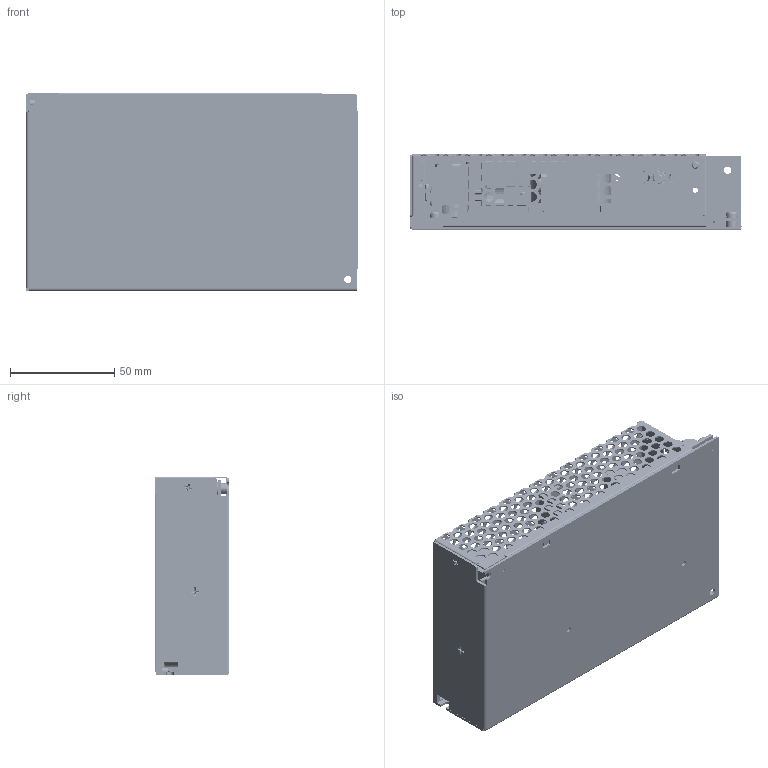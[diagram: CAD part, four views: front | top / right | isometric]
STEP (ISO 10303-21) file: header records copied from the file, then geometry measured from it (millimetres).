
FILE_DESCRIPTION (( 'STEP AP203' ), '1' );
FILE_NAME ('SNP-C107.STEP', '2015-03-05T09:04:51', ( 'mech1' ), ( '' ), 'SwSTEP 2.0', 'SolidWorks 2014', '' );
FILE_SCHEMA (( 'CONFIG_CONTROL_DESIGN' ));
Length unit declared in the file: millimetre
Products named in the file (26): 780-s009; 707-3907-C; 790-1S3C; 890-223H; 470-5005-c; 795-61k3; 250-R447; 710-4502; TO-3P; 245-J047; 180-0220; 360-C107; 410-GU8J; 380-c107; 831-c101; SNP-C107; 800-zl26; 890-CA26; 832-c103; 790-513X; 790-1S3A; 850-C10Y; 831-c102; 800-t22m; 790-913X; 790-1S6X
Assembly tree (35 placements, depth 2):
  SNP-C107
    831-c101
    832-c103
    850-C10Y
    790-913X  x2
    707-3907-C
    470-5005-c
    710-4502
    180-0220
    380-c107
    890-CA26  x4
    790-1S3A  x2
    800-t22m  x2
    780-s009  x4
    890-223H
    250-R447
    245-J047
    410-GU8J
    800-zl26
    790-513X
    831-c102
    790-1S6X  x2
    790-1S3C
    795-61k3
    TO-3P
    360-C107
Bounding box: 159.4 x 36 x 95 mm (x, y, z)
Volume: 132027.8 mm3; surface area: 192350.2 mm2
Topology: 55 solids, 55 shells, 4341 faces, 12026 edges, 7685 vertices
Faces by surface type: cylinder 1755, plane 1653, bspline 723, sphere 96, torus 72, cone 42
Entity records: 149888 total; most frequent: CARTESIAN_POINT 49829, ORIENTED_EDGE 21042, DIRECTION 18961, EDGE_CURVE 10521, AXIS2_PLACEMENT_3D 6864, VERTEX_POINT 6805, VECTOR 5233, LINE 5233
